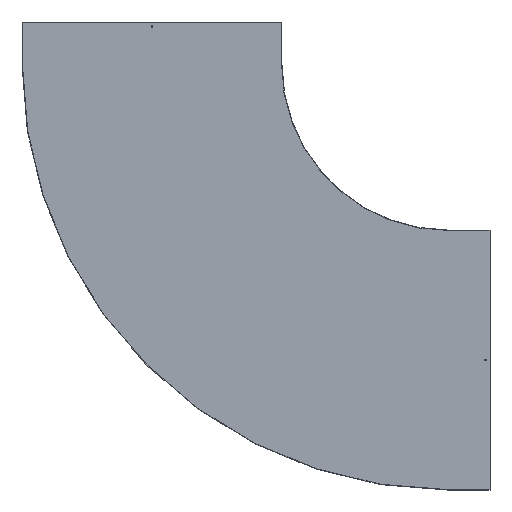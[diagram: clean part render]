
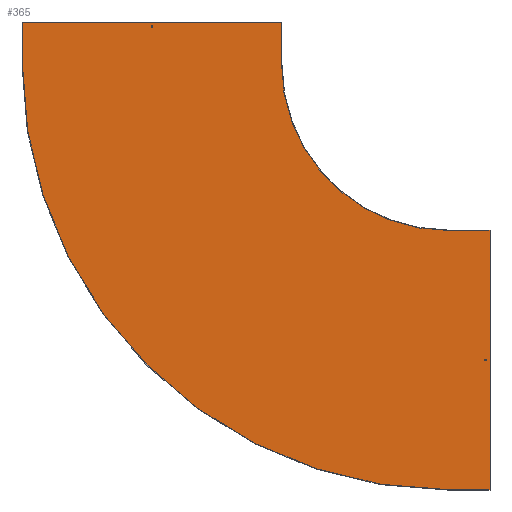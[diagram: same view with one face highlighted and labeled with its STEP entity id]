
A CAD part, front view. The second image highlights one B-rep face of the part: STEP entity #365.
In plain terms, the highlighted planar face has unit normal (0, -1, 0).
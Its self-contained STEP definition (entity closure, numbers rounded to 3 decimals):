
#2 = FACE_OUTER_BOUND ( 'NONE', #269, .T. ) ;
#4 = VERTEX_POINT ( 'NONE', #14 ) ;
#11 = CARTESIAN_POINT ( 'NONE',  ( -1046.75, -1.5, 129. ) ) ;
#14 = CARTESIAN_POINT ( 'NONE',  ( 138., -1.5, -1053.25 ) ) ;
#19 = LINE ( 'NONE', #476, #596 ) ;
#31 = VERTEX_POINT ( 'NONE', #189 ) ;
#34 = CARTESIAN_POINT ( 'NONE',  ( -1510., -1.5, 150. ) ) ;
#35 = CARTESIAN_POINT ( 'NONE',  ( -1053.25, -1.5, 138. ) ) ;
#43 = DIRECTION ( 'NONE',  ( -1., 0., 0. ) ) ;
#47 = AXIS2_PLACEMENT_3D ( 'NONE', #145, #415, #78 ) ;
#48 = LINE ( 'NONE', #586, #259 ) ;
#50 = VERTEX_POINT ( 'NONE', #34 ) ;
#58 = DIRECTION ( 'NONE',  ( 1., 0., 0. ) ) ;
#61 = LINE ( 'NONE', #662, #859 ) ;
#62 = CIRCLE ( 'NONE', #554, 590. ) ;
#67 = CARTESIAN_POINT ( 'NONE',  ( -1510., -1.5, 0. ) ) ;
#74 = ORIENTED_EDGE ( 'NONE', *, *, #152, .F. ) ;
#76 = DIRECTION ( 'NONE',  ( 0., 0., 1. ) ) ;
#78 = DIRECTION ( 'NONE',  ( 0., 0., -1. ) ) ;
#79 = VECTOR ( 'NONE', #752, 1000. ) ;
#83 = DIRECTION ( 'NONE',  ( 0., 0., -1. ) ) ;
#100 = ORIENTED_EDGE ( 'NONE', *, *, #352, .F. ) ;
#103 = LINE ( 'NONE', #844, #243 ) ;
#104 = EDGE_CURVE ( 'NONE', #697, #217, #631, .T. ) ;
#106 = VERTEX_POINT ( 'NONE', #361 ) ;
#124 = CARTESIAN_POINT ( 'NONE',  ( -590., -1.5, 150. ) ) ;
#145 = CARTESIAN_POINT ( 'NONE',  ( 0., -1.5, 0. ) ) ;
#150 = VECTOR ( 'NONE', #76, 1000. ) ;
#152 = EDGE_CURVE ( 'NONE', #106, #31, #156, .T. ) ;
#156 = LINE ( 'NONE', #688, #734 ) ;
#157 = CARTESIAN_POINT ( 'NONE',  ( 138., -1.5, -1046.75 ) ) ;
#173 = EDGE_CURVE ( 'NONE', #459, #50, #517, .T. ) ;
#189 = CARTESIAN_POINT ( 'NONE',  ( 150., -1.5, -590. ) ) ;
#196 = ORIENTED_EDGE ( 'NONE', *, *, #839, .F. ) ;
#202 = CARTESIAN_POINT ( 'NONE',  ( 0., -1.5, 0. ) ) ;
#208 = ORIENTED_EDGE ( 'NONE', *, *, #522, .F. ) ;
#212 = VECTOR ( 'NONE', #783, 1000. ) ;
#217 = VERTEX_POINT ( 'NONE', #779 ) ;
#222 = DIRECTION ( 'NONE',  ( 0., -1., 0. ) ) ;
#243 = VECTOR ( 'NONE', #43, 1000. ) ;
#247 = ORIENTED_EDGE ( 'NONE', *, *, #249, .F. ) ;
#249 = EDGE_CURVE ( 'NONE', #316, #781, #103, .T. ) ;
#255 = DIRECTION ( 'NONE',  ( 0., 0., 1. ) ) ;
#257 = PLANE ( 'NONE',  #814 ) ;
#259 = VECTOR ( 'NONE', #578, 1000. ) ;
#265 = VERTEX_POINT ( 'NONE', #124 ) ;
#269 = EDGE_LOOP ( 'NONE', ( #333, #510, #398, #247, #208, #74, #310, #698 ) ) ;
#276 = DIRECTION ( 'NONE',  ( -1., 0., 0. ) ) ;
#278 = DIRECTION ( 'NONE',  ( 0., 0., -1. ) ) ;
#280 = DIRECTION ( 'NONE',  ( 1., 0., 0. ) ) ;
#288 = EDGE_CURVE ( 'NONE', #50, #265, #585, .T. ) ;
#292 = LINE ( 'NONE', #685, #79 ) ;
#310 = ORIENTED_EDGE ( 'NONE', *, *, #471, .F. ) ;
#316 = VERTEX_POINT ( 'NONE', #481 ) ;
#317 = VECTOR ( 'NONE', #276, 1000. ) ;
#329 = DIRECTION ( 'NONE',  ( 0., 0., -1. ) ) ;
#333 = ORIENTED_EDGE ( 'NONE', *, *, #288, .F. ) ;
#337 = VERTEX_POINT ( 'NONE', #413 ) ;
#352 = EDGE_CURVE ( 'NONE', #4, #697, #861, .T. ) ;
#361 = CARTESIAN_POINT ( 'NONE',  ( 0., -1.5, -590. ) ) ;
#365 = ADVANCED_FACE ( 'NONE', ( #416, #2, #618 ), #257, .T. ) ;
#377 = VECTOR ( 'NONE', #255, 1000. ) ;
#394 = ORIENTED_EDGE ( 'NONE', *, *, #790, .T. ) ;
#398 = ORIENTED_EDGE ( 'NONE', *, *, #561, .F. ) ;
#402 = EDGE_CURVE ( 'NONE', #717, #549, #61, .T. ) ;
#413 = CARTESIAN_POINT ( 'NONE',  ( -1053.25, -1.5, 129. ) ) ;
#415 = DIRECTION ( 'NONE',  ( 0., 1., 0. ) ) ;
#416 = FACE_BOUND ( 'NONE', #797, .T. ) ;
#429 = CIRCLE ( 'NONE', #47, 1510. ) ;
#432 = LINE ( 'NONE', #495, #488 ) ;
#459 = VERTEX_POINT ( 'NONE', #67 ) ;
#461 = EDGE_CURVE ( 'NONE', #595, #717, #19, .T. ) ;
#462 = CARTESIAN_POINT ( 'NONE',  ( -1510., -1.5, 0. ) ) ;
#463 = EDGE_CURVE ( 'NONE', #549, #337, #746, .T. ) ;
#471 = EDGE_CURVE ( 'NONE', #639, #106, #62, .T. ) ;
#476 = CARTESIAN_POINT ( 'NONE',  ( 0., -1.5, 138. ) ) ;
#481 = CARTESIAN_POINT ( 'NONE',  ( 150., -1.5, -1510. ) ) ;
#488 = VECTOR ( 'NONE', #562, 1000. ) ;
#492 = CARTESIAN_POINT ( 'NONE',  ( -1046.75, -1.5, 138. ) ) ;
#495 = CARTESIAN_POINT ( 'NONE',  ( 129., -1.5, 0. ) ) ;
#510 = ORIENTED_EDGE ( 'NONE', *, *, #173, .F. ) ;
#517 = LINE ( 'NONE', #462, #212 ) ;
#522 = EDGE_CURVE ( 'NONE', #31, #316, #674, .T. ) ;
#525 = CARTESIAN_POINT ( 'NONE',  ( -1511.5, -1.5, 150. ) ) ;
#540 = EDGE_LOOP ( 'NONE', ( #579, #569, #661, #394 ) ) ;
#548 = DIRECTION ( 'NONE',  ( 0., -1., 0. ) ) ;
#549 = VERTEX_POINT ( 'NONE', #11 ) ;
#554 = AXIS2_PLACEMENT_3D ( 'NONE', #806, #222, #83 ) ;
#558 = VECTOR ( 'NONE', #695, 1000. ) ;
#561 = EDGE_CURVE ( 'NONE', #781, #459, #429, .T. ) ;
#562 = DIRECTION ( 'NONE',  ( 0., 0., -1. ) ) ;
#569 = ORIENTED_EDGE ( 'NONE', *, *, #402, .T. ) ;
#578 = DIRECTION ( 'NONE',  ( 0., 0., -1. ) ) ;
#579 = ORIENTED_EDGE ( 'NONE', *, *, #461, .T. ) ;
#585 = LINE ( 'NONE', #525, #744 ) ;
#586 = CARTESIAN_POINT ( 'NONE',  ( -590., -1.5, 150. ) ) ;
#590 = DIRECTION ( 'NONE',  ( 1., 0., 0. ) ) ;
#591 = LINE ( 'NONE', #854, #377 ) ;
#592 = ORIENTED_EDGE ( 'NONE', *, *, #104, .F. ) ;
#595 = VERTEX_POINT ( 'NONE', #35 ) ;
#596 = VECTOR ( 'NONE', #280, 1000. ) ;
#605 = VERTEX_POINT ( 'NONE', #818 ) ;
#618 = FACE_BOUND ( 'NONE', #540, .T. ) ;
#619 = ORIENTED_EDGE ( 'NONE', *, *, #675, .F. ) ;
#624 = CARTESIAN_POINT ( 'NONE',  ( 0., -1.5, -1046.75 ) ) ;
#631 = LINE ( 'NONE', #624, #558 ) ;
#639 = VERTEX_POINT ( 'NONE', #820 ) ;
#661 = ORIENTED_EDGE ( 'NONE', *, *, #463, .T. ) ;
#662 = CARTESIAN_POINT ( 'NONE',  ( -1046.75, -1.5, 0. ) ) ;
#670 = DIRECTION ( 'NONE',  ( 0., 0., -1. ) ) ;
#674 = LINE ( 'NONE', #798, #706 ) ;
#675 = EDGE_CURVE ( 'NONE', #605, #4, #292, .T. ) ;
#685 = CARTESIAN_POINT ( 'NONE',  ( 0., -1.5, -1053.25 ) ) ;
#688 = CARTESIAN_POINT ( 'NONE',  ( 0., -1.5, -590. ) ) ;
#695 = DIRECTION ( 'NONE',  ( -1., 0., 0. ) ) ;
#697 = VERTEX_POINT ( 'NONE', #157 ) ;
#698 = ORIENTED_EDGE ( 'NONE', *, *, #803, .F. ) ;
#706 = VECTOR ( 'NONE', #670, 1000. ) ;
#717 = VERTEX_POINT ( 'NONE', #492 ) ;
#734 = VECTOR ( 'NONE', #590, 1000. ) ;
#743 = CARTESIAN_POINT ( 'NONE',  ( 0., -1.5, 129. ) ) ;
#744 = VECTOR ( 'NONE', #58, 1000. ) ;
#746 = LINE ( 'NONE', #743, #317 ) ;
#752 = DIRECTION ( 'NONE',  ( 1., 0., 0. ) ) ;
#779 = CARTESIAN_POINT ( 'NONE',  ( 129., -1.5, -1046.75 ) ) ;
#781 = VERTEX_POINT ( 'NONE', #840 ) ;
#783 = DIRECTION ( 'NONE',  ( 0., 0., 1. ) ) ;
#790 = EDGE_CURVE ( 'NONE', #337, #595, #591, .T. ) ;
#796 = CARTESIAN_POINT ( 'NONE',  ( 138., -1.5, 0. ) ) ;
#797 = EDGE_LOOP ( 'NONE', ( #592, #100, #619, #196 ) ) ;
#798 = CARTESIAN_POINT ( 'NONE',  ( 150., -1.5, -588.5 ) ) ;
#803 = EDGE_CURVE ( 'NONE', #265, #639, #48, .T. ) ;
#806 = CARTESIAN_POINT ( 'NONE',  ( 0., -1.5, 0. ) ) ;
#814 = AXIS2_PLACEMENT_3D ( 'NONE', #202, #548, #278 ) ;
#818 = CARTESIAN_POINT ( 'NONE',  ( 129., -1.5, -1053.25 ) ) ;
#820 = CARTESIAN_POINT ( 'NONE',  ( -590., -1.5, 0. ) ) ;
#839 = EDGE_CURVE ( 'NONE', #217, #605, #432, .T. ) ;
#840 = CARTESIAN_POINT ( 'NONE',  ( 0., -1.5, -1510. ) ) ;
#844 = CARTESIAN_POINT ( 'NONE',  ( 150., -1.5, -1510. ) ) ;
#854 = CARTESIAN_POINT ( 'NONE',  ( -1053.25, -1.5, 0. ) ) ;
#859 = VECTOR ( 'NONE', #329, 1000. ) ;
#861 = LINE ( 'NONE', #796, #150 ) ;
